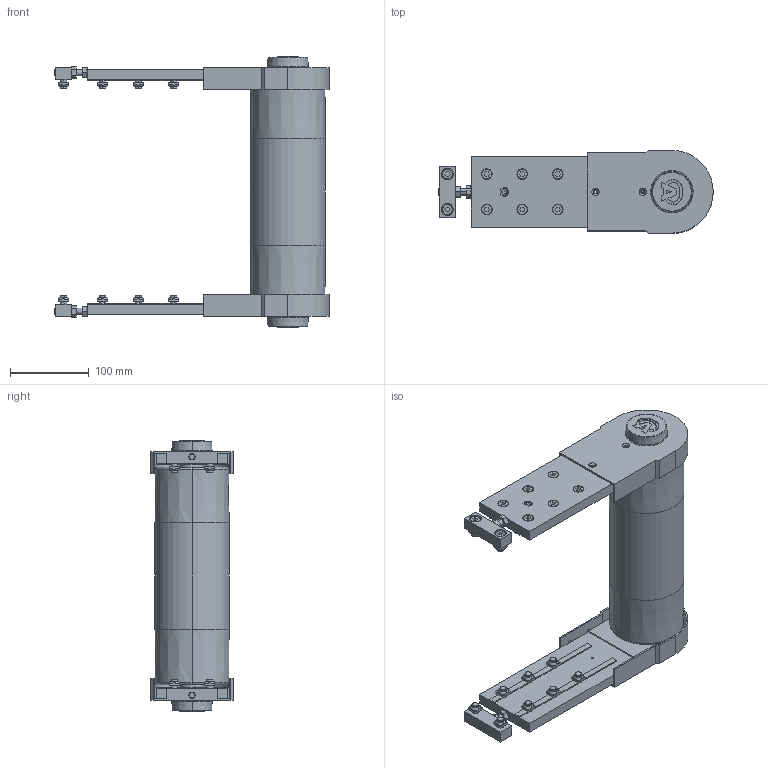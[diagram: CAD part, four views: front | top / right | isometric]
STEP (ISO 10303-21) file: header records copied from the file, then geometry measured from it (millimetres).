
FILE_DESCRIPTION (( 'STEP AP203' ), '1' );
FILE_NAME ('084.095.KI.250.STEP', '2019-07-19T08:24:02', ( 'Localadmin' ), ( 'Microsoft' ), 'SwSTEP 2.0', 'SolidWorks 2018', '' );
FILE_SCHEMA (( 'CONFIG_CONTROL_DESIGN' ));
Length unit declared in the file: millimetre
Products named in the file (11): 084.803.003; 084.803.005-1; circlip for shafts normal_din_PreviewCfg; 084.301.000 VITI ALUSIC_084.301.003; 084.095.KI.250; 084.302.000 DADI ALUSIC 13x13_084.302.004; 084.816.111_084.816.107<A macchina>; 084.812.003; 084.808.002_084.808.002; 084.810.003; 084.802.019_084.802.019
Assembly tree (47 placements, depth 2):
  084.095.KI.250
    084.803.005-1  x2
    084.301.000 VITI ALUSIC_084.301.003  x16
    084.302.000 DADI ALUSIC 13x13_084.302.004  x16
    084.816.111_084.816.107<A macchina>
    084.812.003  x2
    084.808.002_084.808.002  x2
    084.810.003  x2
    084.802.019_084.802.019  x2
    084.803.003  x2
    circlip for shafts normal_din_PreviewCfg  x2
Bounding box: 348.5 x 105 x 343 mm (x, y, z)
Volume: 1568536.4 mm3; surface area: 642298.6 mm2
Topology: 53 solids, 55 shells, 1602 faces, 4134 edges, 2708 vertices
Faces by surface type: plane 967, cylinder 371, torus 116, cone 92, bspline 48, sphere 8
Entity records: 21892 total; most frequent: CARTESIAN_POINT 3923, DIRECTION 3331, ORIENTED_EDGE 3270, EDGE_CURVE 1635, AXIS2_PLACEMENT_3D 1129, VERTEX_POINT 1077, LINE 1073, VECTOR 1073
